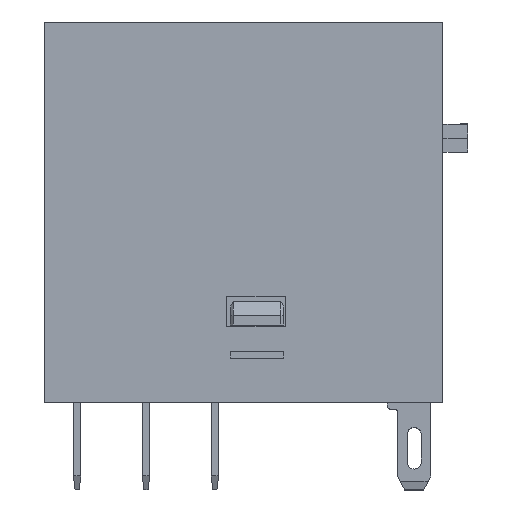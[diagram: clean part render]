
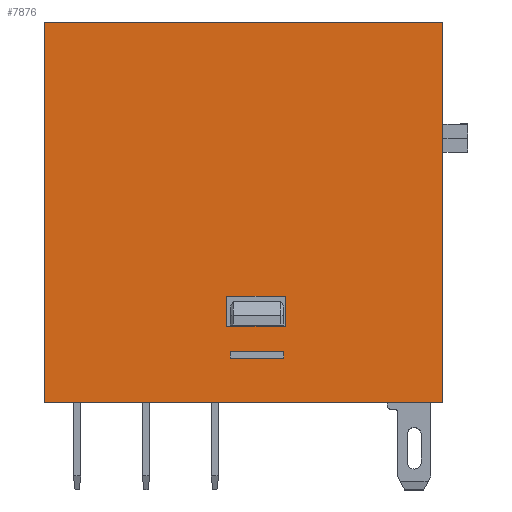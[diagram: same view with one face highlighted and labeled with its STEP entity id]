
A CAD part, top view. The second image highlights one B-rep face of the part: STEP entity #7876.
In plain terms, the highlighted planar face has unit normal (0, 0, 1).
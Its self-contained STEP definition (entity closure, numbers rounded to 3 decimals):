
#187 = DIRECTION ( 'NONE',  ( 0., -1., 0. ) ) ;
#230 = LINE ( 'NONE', #20138, #8837 ) ;
#426 = CARTESIAN_POINT ( 'NONE',  ( -0.8, 3.992, 6.3 ) ) ;
#1454 = VERTEX_POINT ( 'NONE', #7348 ) ;
#1510 = CARTESIAN_POINT ( 'NONE',  ( -0.55, -0.008, 6.3 ) ) ;
#1532 = VECTOR ( 'NONE', #10257, 1000. ) ;
#1782 = CARTESIAN_POINT ( 'NONE',  ( -0.8, 1.792, 6.3 ) ) ;
#1976 = VECTOR ( 'NONE', #11736, 1000. ) ;
#2124 = DIRECTION ( 'NONE',  ( 1., 0., 0. ) ) ;
#2173 = ORIENTED_EDGE ( 'NONE', *, *, #16591, .T. ) ;
#2354 = ORIENTED_EDGE ( 'NONE', *, *, #4604, .T. ) ;
#2622 = LINE ( 'NONE', #11492, #10707 ) ;
#2663 = ORIENTED_EDGE ( 'NONE', *, *, #17201, .T. ) ;
#2664 = VECTOR ( 'NONE', #8269, 1000. ) ;
#3168 = DIRECTION ( 'NONE',  ( 0., 0., -1. ) ) ;
#3178 = VECTOR ( 'NONE', #14084, 1000. ) ;
#3331 = CARTESIAN_POINT ( 'NONE',  ( 14.8, -3.708, 6.3 ) ) ;
#3620 = VERTEX_POINT ( 'NONE', #14432 ) ;
#3941 = AXIS2_PLACEMENT_3D ( 'NONE', #6420, #3168, #19339 ) ;
#3969 = DIRECTION ( 'NONE',  ( 1., 0., 0. ) ) ;
#3990 = ORIENTED_EDGE ( 'NONE', *, *, #20955, .F. ) ;
#3993 = VECTOR ( 'NONE', #11393, 1000. ) ;
#4001 = LINE ( 'NONE', #1782, #20669 ) ;
#4295 = VERTEX_POINT ( 'NONE', #19357 ) ;
#4379 = EDGE_CURVE ( 'NONE', #3620, #10795, #4001, .T. ) ;
#4459 = FACE_OUTER_BOUND ( 'NONE', #9433, .T. ) ;
#4604 = EDGE_CURVE ( 'NONE', #4295, #10245, #230, .T. ) ;
#4954 = FACE_BOUND ( 'NONE', #17764, .T. ) ;
#5027 = DIRECTION ( 'NONE',  ( 0., -1., 0. ) ) ;
#5057 = VERTEX_POINT ( 'NONE', #20417 ) ;
#6250 = ORIENTED_EDGE ( 'NONE', *, *, #18847, .F. ) ;
#6266 = LINE ( 'NONE', #426, #1976 ) ;
#6336 = CARTESIAN_POINT ( 'NONE',  ( 14.8, -3.708, 6.3 ) ) ;
#6420 = CARTESIAN_POINT ( 'NONE',  ( -14., 9.792, 6.3 ) ) ;
#6637 = CARTESIAN_POINT ( 'NONE',  ( -0.8, 1.792, 6.3 ) ) ;
#7348 = CARTESIAN_POINT ( 'NONE',  ( -0.8, 3.992, 6.3 ) ) ;
#7389 = EDGE_CURVE ( 'NONE', #10245, #14346, #12588, .T. ) ;
#7413 = VECTOR ( 'NONE', #5027, 1000. ) ;
#7610 = CARTESIAN_POINT ( 'NONE',  ( -14., -3.708, 6.3 ) ) ;
#7876 = ADVANCED_FACE ( 'NONE', ( #4459, #4954, #16849 ), #8063, .F. ) ;
#8063 = PLANE ( 'NONE',  #3941 ) ;
#8212 = CARTESIAN_POINT ( 'NONE',  ( 14.8, 23.792, 6.3 ) ) ;
#8269 = DIRECTION ( 'NONE',  ( 0., -1., 0. ) ) ;
#8781 = VERTEX_POINT ( 'NONE', #1510 ) ;
#8837 = VECTOR ( 'NONE', #3969, 1000. ) ;
#9152 = LINE ( 'NONE', #13989, #17210 ) ;
#9294 = EDGE_CURVE ( 'NONE', #1454, #3620, #19825, .T. ) ;
#9342 = VERTEX_POINT ( 'NONE', #9966 ) ;
#9433 = EDGE_LOOP ( 'NONE', ( #6250, #14791, #2354, #13150 ) ) ;
#9580 = VECTOR ( 'NONE', #18307, 1000. ) ;
#9966 = CARTESIAN_POINT ( 'NONE',  ( 3.4, 3.992, 6.3 ) ) ;
#9995 = ORIENTED_EDGE ( 'NONE', *, *, #4379, .F. ) ;
#10118 = CARTESIAN_POINT ( 'NONE',  ( 3.3, -0.008, 6.3 ) ) ;
#10227 = ORIENTED_EDGE ( 'NONE', *, *, #10380, .F. ) ;
#10245 = VERTEX_POINT ( 'NONE', #6336 ) ;
#10257 = DIRECTION ( 'NONE',  ( -1., 0., 0. ) ) ;
#10380 = EDGE_CURVE ( 'NONE', #8781, #16710, #2622, .T. ) ;
#10403 = CARTESIAN_POINT ( 'NONE',  ( 3.3, -0.508, 6.3 ) ) ;
#10707 = VECTOR ( 'NONE', #187, 1000. ) ;
#10795 = VERTEX_POINT ( 'NONE', #17728 ) ;
#11393 = DIRECTION ( 'NONE',  ( 0., 1., 0. ) ) ;
#11492 = CARTESIAN_POINT ( 'NONE',  ( -0.55, 1.892, 6.3 ) ) ;
#11587 = ORIENTED_EDGE ( 'NONE', *, *, #19317, .F. ) ;
#11736 = DIRECTION ( 'NONE',  ( -1., 0., 0. ) ) ;
#12193 = LINE ( 'NONE', #16326, #7413 ) ;
#12588 = LINE ( 'NONE', #3331, #3993 ) ;
#13033 = ORIENTED_EDGE ( 'NONE', *, *, #17127, .T. ) ;
#13150 = ORIENTED_EDGE ( 'NONE', *, *, #7389, .T. ) ;
#13359 = CARTESIAN_POINT ( 'NONE',  ( -14., -0.008, 6.3 ) ) ;
#13448 = CARTESIAN_POINT ( 'NONE',  ( -14., 23.792, 6.3 ) ) ;
#13807 = VERTEX_POINT ( 'NONE', #15013 ) ;
#13879 = LINE ( 'NONE', #13448, #9580 ) ;
#13940 = LINE ( 'NONE', #10403, #1532 ) ;
#13989 = CARTESIAN_POINT ( 'NONE',  ( 3.4, 1.792, 6.3 ) ) ;
#14084 = DIRECTION ( 'NONE',  ( 0., -1., 0. ) ) ;
#14346 = VERTEX_POINT ( 'NONE', #8212 ) ;
#14432 = CARTESIAN_POINT ( 'NONE',  ( -0.8, 1.792, 6.3 ) ) ;
#14695 = DIRECTION ( 'NONE',  ( 1., 0., 0. ) ) ;
#14791 = ORIENTED_EDGE ( 'NONE', *, *, #20463, .T. ) ;
#15013 = CARTESIAN_POINT ( 'NONE',  ( 3.3, -0.508, 6.3 ) ) ;
#15435 = LINE ( 'NONE', #13359, #19218 ) ;
#16052 = LINE ( 'NONE', #7610, #3178 ) ;
#16326 = CARTESIAN_POINT ( 'NONE',  ( 3.3, 1.892, 6.3 ) ) ;
#16591 = EDGE_CURVE ( 'NONE', #19310, #13807, #12193, .T. ) ;
#16710 = VERTEX_POINT ( 'NONE', #18665 ) ;
#16849 = FACE_BOUND ( 'NONE', #19780, .T. ) ;
#17127 = EDGE_CURVE ( 'NONE', #8781, #19310, #15435, .T. ) ;
#17201 = EDGE_CURVE ( 'NONE', #13807, #16710, #13940, .T. ) ;
#17210 = VECTOR ( 'NONE', #18842, 1000. ) ;
#17728 = CARTESIAN_POINT ( 'NONE',  ( 3.4, 1.792, 6.3 ) ) ;
#17764 = EDGE_LOOP ( 'NONE', ( #10227, #13033, #2173, #2663 ) ) ;
#17973 = ORIENTED_EDGE ( 'NONE', *, *, #9294, .F. ) ;
#18307 = DIRECTION ( 'NONE',  ( 1., 0., 0. ) ) ;
#18665 = CARTESIAN_POINT ( 'NONE',  ( -0.55, -0.508, 6.3 ) ) ;
#18842 = DIRECTION ( 'NONE',  ( 0., 1., 0. ) ) ;
#18847 = EDGE_CURVE ( 'NONE', #5057, #14346, #13879, .T. ) ;
#19218 = VECTOR ( 'NONE', #2124, 1000. ) ;
#19310 = VERTEX_POINT ( 'NONE', #10118 ) ;
#19317 = EDGE_CURVE ( 'NONE', #9342, #1454, #6266, .T. ) ;
#19339 = DIRECTION ( 'NONE',  ( 0., -1., 0. ) ) ;
#19357 = CARTESIAN_POINT ( 'NONE',  ( -14., -3.708, 6.3 ) ) ;
#19780 = EDGE_LOOP ( 'NONE', ( #11587, #3990, #9995, #17973 ) ) ;
#19825 = LINE ( 'NONE', #6637, #2664 ) ;
#20138 = CARTESIAN_POINT ( 'NONE',  ( -14., -3.708, 6.3 ) ) ;
#20417 = CARTESIAN_POINT ( 'NONE',  ( -14., 23.792, 6.3 ) ) ;
#20463 = EDGE_CURVE ( 'NONE', #5057, #4295, #16052, .T. ) ;
#20669 = VECTOR ( 'NONE', #14695, 1000. ) ;
#20955 = EDGE_CURVE ( 'NONE', #10795, #9342, #9152, .T. ) ;
